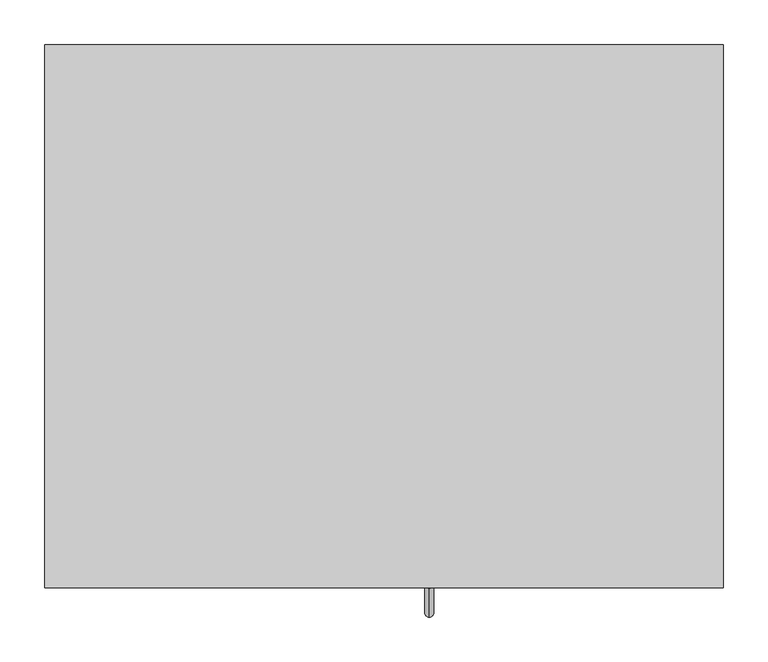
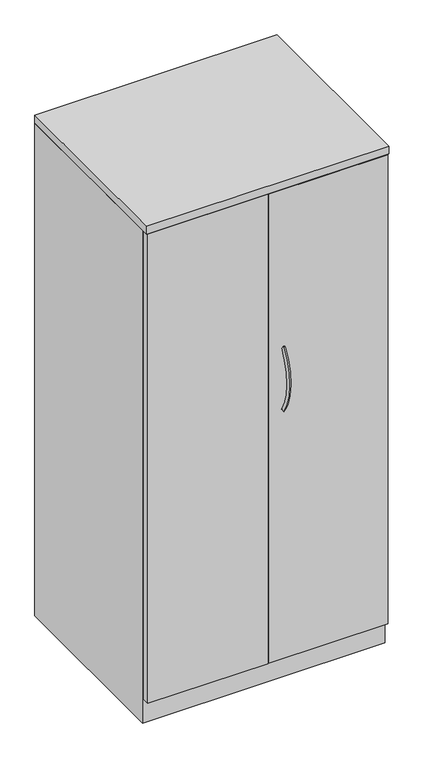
"""IFC4 building model written with IfcOpenShell, lengths in millimetres: furniture geometry, Steelcase - Universal Storage - Cabinet - Wardrobe - 66H-84H - Proud Steel : Side to Side Coat Rod - 65 1/2H x 24D x 30W."""

from ifc_helpers import new_model, si_unit, point, frame, origin, place, context, project, spatial, polyline, circle_curve, ellipse_curve, trimmed, outline, extrude, faceted_brep, source, transform, mapped, element, save
from ifc_brep_helpers import plane_surface, revolved_surface, advanced_brep


def furniture_1cb3b8e1(model_context):
    return source(origin(), model_context, "Body", "SolidModel", [
        extrude(outline(polyline([(762.0, 130.048), (762.0, -479.552), (0.0, -479.552), (0.0, 130.048), (762.0, 130.048)])), frame((0.0, 0.0, 1638.2999516), z_axis=(0.0, 0.0, 1.0), x_axis=(1.0, 0.0, 0.0)), (0.0, 0.0, 1.0), 25.4),
        advanced_brep(
        [(431.7682496, -480.0678374, 1114.4756859), (431.7682496, -471.5857696, 1108.8828219), (431.7682496, -477.4964738, 894.418042), (431.7682496, -469.1474089, 900.2075769)],
        [
            (0, 1, circle_curve(frame((431.7682496, -475.8268035, 1111.6792539), z_axis=(0.0, 0.5504787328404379, 0.8348491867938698), x_axis=(0.0, 0.8348491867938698, -0.5504787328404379)), 5.08)),
            (1, 0, circle_curve(frame((431.7682496, -475.8268035, 1111.6792539), z_axis=(0.0, 0.5504787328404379, 0.8348491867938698), x_axis=(0.0, 0.8348491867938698, -0.5504787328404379)), 5.08)),
            (2, 3, circle_curve(frame((431.7682496, -473.3219413, 897.3128094), z_axis=(0.0, 0.5698361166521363, -0.8217583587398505), x_axis=(0.0, 0.8217583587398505, 0.5698361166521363)), 5.08)),
            (3, 2, circle_curve(frame((431.7682496, -473.3219413, 897.3128094), z_axis=(0.0, 0.5698361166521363, -0.8217583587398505), x_axis=(0.0, 0.8217583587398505, 0.5698361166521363)), 5.08)),
            (3, 1, circle_curve(frame((431.7682496, -316.0827352, 1006.3479992), z_axis=(-1.0, 0.0, 0.0), x_axis=(0.0, -0.83484918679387, 0.5504787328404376)), 186.2648211)),
            (0, 2, circle_curve(frame((431.7682496, -316.0827352, 1006.3479992), z_axis=(1.0, 0.0, 0.0), x_axis=(0.0, -0.83484918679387, 0.5504787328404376)), 196.4248211)),
        ],
        [
            plane_surface(frame((432.5619996, -475.1785718, 1111.2518261), z_axis=(0.0, 0.5504787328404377, 0.83484918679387), x_axis=(1.0, 0.0, 0.0))),
            plane_surface(frame((432.5619996, -472.6838742, 897.7552676), z_axis=(0.0, 0.5698361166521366, -0.8217583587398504), x_axis=(1.0, 0.0, 0.0))),
            revolved_surface(trimmed(ellipse_curve(frame((431.7682496, -475.8268035, 1111.6792539), z_axis=(0.0, 0.5504787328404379, 0.8348491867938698), x_axis=(0.0, 0.8348491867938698, -0.5504787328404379)), 5.08, 5.08), [point((431.7682496, -480.0678374, 1114.4756859))], [point((431.7682496, -471.5857696, 1108.8828219))], True, "CARTESIAN"), (432.5619996, -316.0827352, 1006.3479992), (1.0, 0.0, 0.0)),
            revolved_surface(trimmed(ellipse_curve(frame((431.7682496, -475.8268035, 1111.6792539), z_axis=(0.0, 0.5504787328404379, 0.8348491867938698), x_axis=(0.0, 0.8348491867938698, -0.5504787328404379)), 5.08, 5.08), [point((431.7682496, -471.5857696, 1108.8828219))], [point((431.7682496, -480.0678374, 1114.4756859))], True, "CARTESIAN"), (432.5619996, -316.0827352, 1006.3479992), (1.0, 0.0, 0.0)),
        ],
        [
            (0, [[1, 2]]),
            (1, [[3, 4]]),
            (2, [[5, -1, 6, -4]]),
            (3, [[-6, -2, -5, -3]]),
        ],
    ),
        extrude(outline(polyline([(381.0, -479.552), (3.1725353, -479.552), (3.1725353, -457.3261219), (381.0, -457.3261219), (381.0, -479.552)])), frame((0.0, 0.0, 77.724), z_axis=(0.0, 0.0, 1.0), x_axis=(1.0, 0.0, 0.0)), (0.0, 0.0, 1.0), 1559.052),
        extrude(outline(polyline([(758.8225413, -479.552), (382.5239992, -479.552), (382.5239992, -457.3261219), (758.8225413, -457.3261219), (758.8225413, -479.552)])), frame((0.0, 0.0, 77.724), z_axis=(0.0, 0.0, 1.0), x_axis=(1.0, 0.0, 0.0)), (0.0, 0.0, 1.0), 1559.052),
        faceted_brep([(25.4000008, -457.3261219, 76.2), (736.6000242, -457.3261219, 76.2), (736.6000242, 104.6479992, 76.2), (25.4000008, 104.6479992, 76.2), (762.0, 130.048, 0.0), (762.0, -457.3261219, 0.0), (0.0, -457.3261219, 0.0), (0.0, 130.048, 0.0), (0.0, 130.048, 1636.776), (762.0, 130.048, 1636.776), (0.0, -457.3261219, 1636.776), (762.0, -457.3261219, 1636.776), (736.6000242, -457.3261219, 1636.776), (25.4000008, -457.3261219, 1636.776), (736.6000242, 104.6479992, 1636.776), (25.4000008, 104.6479992, 1636.776)], [[[0, 1, 2, 3]], [[4, 5, 6, 7]], [[4, 7, 8, 9]], [[8, 7, 6, 10]], [[10, 6, 5, 11, 12, 1, 0, 13]], [[11, 5, 4, 9]], [[14, 12, 11, 9, 8, 10, 13, 15]], [[12, 14, 2, 1]], [[15, 13, 0, 3]], [[14, 15, 3, 2]]]),
    ])


if __name__ == "__main__":
    model = new_model("IFC4")
    model_context = context("Model", 3, world=origin())
    ifc_project = project(units=[si_unit("LENGTHUNIT", "METRE", prefix="MILLI")], contexts=[model_context])
    site = spatial("IfcSite", under=ifc_project)
    building = spatial("IfcBuilding", under=site)
    placement = place(None, origin())
    furniture_shape = furniture_1cb3b8e1(model_context)
    element("IfcFurniture", 1, ObjectType="Steelcase - Universal Storage - Cabinet - Wardrobe - 66H-84H - Proud Steel : Side to Side Coat Rod - 65 1/2H x 24D x 30W", at=placement, inside=building, context=model_context, shape_type="MappedRepresentation", body=[
        mapped(furniture_shape, transform((0.0, 0.0, 0.0), x_axis=(1.0, 0.0, 0.0), y_axis=(0.0, 1.0, 0.0), z_axis=(0.0, 0.0, 1.0))),
    ])
    save(model, "model.ifc")
